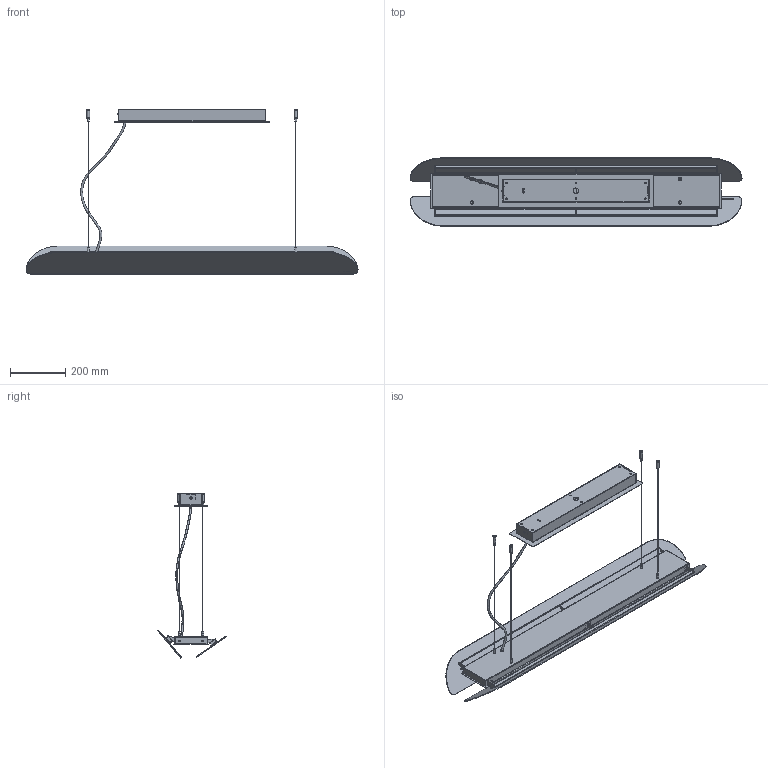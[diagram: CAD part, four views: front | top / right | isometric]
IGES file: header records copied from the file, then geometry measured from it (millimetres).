
Start section: SolidWorks IGES file using analytic representation for surfaces
Global section: file name: C:\VaultDeCastelli\Progetti\DC\PESO LEGGERO PRODOTTI\Ale\DeCastelli-3D-Aare ceiling 120.igs; native system: SolidWorks 2022; preprocessor: SolidWorks 2022; author: AlessandroP; date: 240719.130029; units: millimetre
Bounding box: 1200 x 246.94 x 593.91 mm (x, y, z)
Surface area: 1626355.9 mm2 (no closed solid volume)
Topology: 0 solids, 0 shells, 376 faces, 9132 edges, 9128 vertices
Faces by surface type: bspline 218, revolution 158
